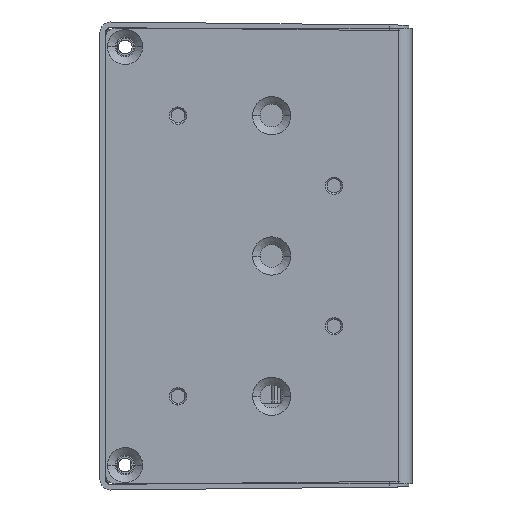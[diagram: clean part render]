
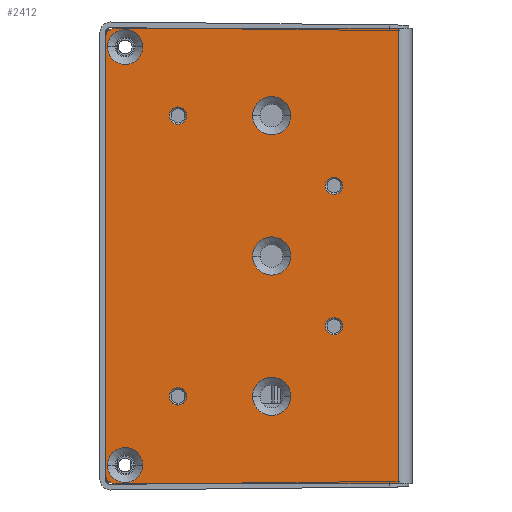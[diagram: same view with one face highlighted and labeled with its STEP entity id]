
A CAD part, left-side view. The second image highlights one B-rep face of the part: STEP entity #2412.
In plain terms, the highlighted planar face has unit normal (-1, 0, 0).
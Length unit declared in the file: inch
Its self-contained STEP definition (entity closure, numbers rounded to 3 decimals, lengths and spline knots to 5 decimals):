
#2=DIRECTION('',(0.,-1.,0.));
#3=VECTOR('',#2,1.812);
#4=CARTESIAN_POINT('',(-2.,1.901,-1.46));
#5=LINE('',#4,#3);
#30=CARTESIAN_POINT('',(-2.,1.901,-1.397));
#31=DIRECTION('',(-1.,0.,0.));
#32=DIRECTION('',(0.,1.,0.));
#33=AXIS2_PLACEMENT_3D('',#30,#31,#32);
#142=CARTESIAN_POINT('',(-2.,0.9,0.9));
#143=DIRECTION('',(1.,0.,0.));
#144=DIRECTION('',(0.,1.,0.));
#145=AXIS2_PLACEMENT_3D('',#142,#143,#144);
#160=DIRECTION('',(0.,0.,1.));
#161=VECTOR('',#160,2.794);
#162=CARTESIAN_POINT('',(-2.,1.964,-1.397));
#163=LINE('',#162,#161);
#164=CARTESIAN_POINT('',(-2.,1.5,-0.9));
#165=DIRECTION('',(-1.,0.,0.));
#166=DIRECTION('',(0.,1.,0.));
#167=AXIS2_PLACEMENT_3D('',#164,#165,#166);
#169=CARTESIAN_POINT('',(-2.,1.5,-0.9));
#170=DIRECTION('',(-1.,0.,0.));
#171=DIRECTION('',(0.,-1.,0.));
#172=AXIS2_PLACEMENT_3D('',#169,#170,#171);
#174=CARTESIAN_POINT('',(-2.,1.5,0.9));
#175=DIRECTION('',(-1.,0.,0.));
#176=DIRECTION('',(0.,1.,0.));
#177=AXIS2_PLACEMENT_3D('',#174,#175,#176);
#179=CARTESIAN_POINT('',(-2.,1.5,0.9));
#180=DIRECTION('',(-1.,0.,0.));
#181=DIRECTION('',(0.,-1.,0.));
#182=AXIS2_PLACEMENT_3D('',#179,#180,#181);
#184=CARTESIAN_POINT('',(-2.,0.5,-0.45));
#185=DIRECTION('',(-1.,0.,0.));
#186=DIRECTION('',(0.,1.,0.));
#187=AXIS2_PLACEMENT_3D('',#184,#185,#186);
#189=CARTESIAN_POINT('',(-2.,0.5,-0.45));
#190=DIRECTION('',(-1.,0.,0.));
#191=DIRECTION('',(0.,-1.,0.));
#192=AXIS2_PLACEMENT_3D('',#189,#190,#191);
#194=CARTESIAN_POINT('',(-2.,0.5,0.45));
#195=DIRECTION('',(-1.,0.,0.));
#196=DIRECTION('',(0.,1.,0.));
#197=AXIS2_PLACEMENT_3D('',#194,#195,#196);
#199=CARTESIAN_POINT('',(-2.,0.5,0.45));
#200=DIRECTION('',(-1.,0.,0.));
#201=DIRECTION('',(0.,-1.,0.));
#202=AXIS2_PLACEMENT_3D('',#199,#200,#201);
#204=CARTESIAN_POINT('',(-2.,0.9,0.9));
#205=DIRECTION('',(1.,0.,0.));
#206=DIRECTION('',(0.,-1.,0.));
#207=AXIS2_PLACEMENT_3D('',#204,#205,#206);
#218=CARTESIAN_POINT('',(-2.,0.9,0.));
#219=DIRECTION('',(1.,0.,0.));
#220=DIRECTION('',(0.,1.,0.));
#221=AXIS2_PLACEMENT_3D('',#218,#219,#220);
#236=CARTESIAN_POINT('',(-2.,0.9,0.));
#237=DIRECTION('',(1.,0.,0.));
#238=DIRECTION('',(0.,-1.,0.));
#239=AXIS2_PLACEMENT_3D('',#236,#237,#238);
#254=CARTESIAN_POINT('',(-2.,1.839,1.34));
#255=DIRECTION('',(-1.,0.,0.));
#256=DIRECTION('',(0.,-1.,0.));
#257=AXIS2_PLACEMENT_3D('',#254,#255,#256);
#264=CARTESIAN_POINT('',(-2.,1.839,1.34));
#265=DIRECTION('',(-1.,0.,0.));
#266=DIRECTION('',(0.,1.,0.));
#267=AXIS2_PLACEMENT_3D('',#264,#265,#266);
#448=CARTESIAN_POINT('',(-2.,1.839,-1.34));
#449=DIRECTION('',(-1.,0.,0.));
#450=DIRECTION('',(0.,1.,0.));
#451=AXIS2_PLACEMENT_3D('',#448,#449,#450);
#466=CARTESIAN_POINT('',(-2.,1.839,-1.34));
#467=DIRECTION('',(-1.,0.,0.));
#468=DIRECTION('',(0.,-1.,0.));
#469=AXIS2_PLACEMENT_3D('',#466,#467,#468);
#654=DIRECTION('',(0.,-1.,0.));
#655=VECTOR('',#654,1.812);
#656=CARTESIAN_POINT('',(-2.,1.901,1.46));
#657=LINE('',#656,#655);
#671=CARTESIAN_POINT('',(-2.,1.901,1.397));
#672=DIRECTION('',(-1.,0.,0.));
#673=DIRECTION('',(0.,0.,1.));
#674=AXIS2_PLACEMENT_3D('',#671,#672,#673);
#1036=DIRECTION('',(0.,0.,-1.));
#1037=VECTOR('',#1036,2.92);
#1038=CARTESIAN_POINT('',(-2.,0.089,1.46));
#1039=LINE('',#1038,#1037);
#1668=CARTESIAN_POINT('',(-2.,0.9,-0.9));
#1669=DIRECTION('',(1.,0.,0.));
#1670=DIRECTION('',(0.,1.,0.));
#1671=AXIS2_PLACEMENT_3D('',#1668,#1669,#1670);
#1686=CARTESIAN_POINT('',(-2.,0.9,-0.9));
#1687=DIRECTION('',(1.,0.,0.));
#1688=DIRECTION('',(0.,-1.,0.));
#1689=AXIS2_PLACEMENT_3D('',#1686,#1687,#1688);
#1736=CARTESIAN_POINT('',(-2.,0.089,1.46));
#1737=CARTESIAN_POINT('',(-2.,0.089,-1.46));
#1738=VERTEX_POINT('',#1736);
#1739=VERTEX_POINT('',#1737);
#1752=CARTESIAN_POINT('',(-2.,1.964,-1.397));
#1754=VERTEX_POINT('',#1752);
#1756=CARTESIAN_POINT('',(-2.,1.901,-1.46));
#1757=VERTEX_POINT('',#1756);
#1761=CARTESIAN_POINT('',(-2.,1.964,1.397));
#1763=VERTEX_POINT('',#1761);
#1766=CARTESIAN_POINT('',(-2.,1.901,1.46));
#1767=VERTEX_POINT('',#1766);
#1860=CARTESIAN_POINT('',(-2.,1.55563,-0.9));
#1861=CARTESIAN_POINT('',(-2.,1.44438,-0.9));
#1862=VERTEX_POINT('',#1860);
#1863=VERTEX_POINT('',#1861);
#1872=CARTESIAN_POINT('',(-2.,1.55563,0.9));
#1873=CARTESIAN_POINT('',(-2.,1.44438,0.9));
#1874=VERTEX_POINT('',#1872);
#1875=VERTEX_POINT('',#1873);
#1884=CARTESIAN_POINT('',(-2.,0.55563,-0.45));
#1885=CARTESIAN_POINT('',(-2.,0.44438,-0.45));
#1886=VERTEX_POINT('',#1884);
#1887=VERTEX_POINT('',#1885);
#1896=CARTESIAN_POINT('',(-2.,0.55563,0.45));
#1897=CARTESIAN_POINT('',(-2.,0.44438,0.45));
#1898=VERTEX_POINT('',#1896);
#1899=VERTEX_POINT('',#1897);
#1984=CARTESIAN_POINT('',(-2.,1.7265,-1.34));
#1985=CARTESIAN_POINT('',(-2.,1.9515,-1.34));
#1986=VERTEX_POINT('',#1984);
#1987=VERTEX_POINT('',#1985);
#1992=CARTESIAN_POINT('',(-2.,1.7265,1.34));
#1993=CARTESIAN_POINT('',(-2.,1.9515,1.34));
#1994=VERTEX_POINT('',#1992);
#1995=VERTEX_POINT('',#1993);
#2068=CARTESIAN_POINT('',(-2.,0.7775,-0.9));
#2069=CARTESIAN_POINT('',(-2.,1.0225,-0.9));
#2070=VERTEX_POINT('',#2068);
#2071=VERTEX_POINT('',#2069);
#2076=CARTESIAN_POINT('',(-2.,0.7775,0.));
#2077=CARTESIAN_POINT('',(-2.,1.0225,0.));
#2078=VERTEX_POINT('',#2076);
#2079=VERTEX_POINT('',#2077);
#2084=CARTESIAN_POINT('',(-2.,0.7775,0.9));
#2085=CARTESIAN_POINT('',(-2.,1.0225,0.9));
#2086=VERTEX_POINT('',#2084);
#2087=VERTEX_POINT('',#2085);
#2343=CARTESIAN_POINT('',(-2.,1.964,-1.46));
#2344=DIRECTION('',(-1.,0.,0.));
#2345=DIRECTION('',(0.,-1.,0.));
#2346=AXIS2_PLACEMENT_3D('',#2343,#2344,#2345);
#2347=PLANE('',#2346);
#2348=ORIENTED_EDGE('',*,*,#2219,.F.);
#2349=ORIENTED_EDGE('',*,*,#2237,.T.);
#2351=ORIENTED_EDGE('',*,*,#2350,.F.);
#2353=ORIENTED_EDGE('',*,*,#2352,.T.);
#2355=ORIENTED_EDGE('',*,*,#2354,.T.);
#2356=ORIENTED_EDGE('',*,*,#2187,.F.);
#2357=EDGE_LOOP('',(#2348,#2349,#2351,#2353,#2355,#2356));
#2358=FACE_OUTER_BOUND('',#2357,.F.);
#2360=ORIENTED_EDGE('',*,*,#2359,.F.);
#2362=ORIENTED_EDGE('',*,*,#2361,.F.);
#2363=EDGE_LOOP('',(#2360,#2362));
#2364=FACE_BOUND('',#2363,.F.);
#2366=ORIENTED_EDGE('',*,*,#2365,.T.);
#2368=ORIENTED_EDGE('',*,*,#2367,.T.);
#2369=EDGE_LOOP('',(#2366,#2368));
#2370=FACE_BOUND('',#2369,.F.);
#2372=ORIENTED_EDGE('',*,*,#2371,.T.);
#2374=ORIENTED_EDGE('',*,*,#2373,.T.);
#2375=EDGE_LOOP('',(#2372,#2374));
#2376=FACE_BOUND('',#2375,.F.);
#2377=ORIENTED_EDGE('',*,*,#2333,.F.);
#2379=ORIENTED_EDGE('',*,*,#2378,.F.);
#2380=EDGE_LOOP('',(#2377,#2379));
#2381=FACE_BOUND('',#2380,.F.);
#2383=ORIENTED_EDGE('',*,*,#2382,.T.);
#2385=ORIENTED_EDGE('',*,*,#2384,.T.);
#2386=EDGE_LOOP('',(#2383,#2385));
#2387=FACE_BOUND('',#2386,.F.);
#2389=ORIENTED_EDGE('',*,*,#2388,.T.);
#2391=ORIENTED_EDGE('',*,*,#2390,.T.);
#2392=EDGE_LOOP('',(#2389,#2391));
#2393=FACE_BOUND('',#2392,.F.);
#2395=ORIENTED_EDGE('',*,*,#2394,.T.);
#2397=ORIENTED_EDGE('',*,*,#2396,.T.);
#2398=EDGE_LOOP('',(#2395,#2397));
#2399=FACE_BOUND('',#2398,.F.);
#2401=ORIENTED_EDGE('',*,*,#2400,.T.);
#2403=ORIENTED_EDGE('',*,*,#2402,.T.);
#2404=EDGE_LOOP('',(#2401,#2403));
#2405=FACE_BOUND('',#2404,.F.);
#2407=ORIENTED_EDGE('',*,*,#2406,.F.);
#2409=ORIENTED_EDGE('',*,*,#2408,.F.);
#2410=EDGE_LOOP('',(#2407,#2409));
#2411=FACE_BOUND('',#2410,.F.);
#2412=ADVANCED_FACE('',(#2358,#2364,#2370,#2376,#2381,#2387,#2393,#2399,#2405,
#2411),#2347,.T.);
#34=CIRCLE('',#33,0.063);
#146=CIRCLE('',#145,0.1225);
#168=CIRCLE('',#167,0.05563);
#173=CIRCLE('',#172,0.05563);
#178=CIRCLE('',#177,0.05563);
#183=CIRCLE('',#182,0.05563);
#188=CIRCLE('',#187,0.05563);
#193=CIRCLE('',#192,0.05563);
#198=CIRCLE('',#197,0.05563);
#203=CIRCLE('',#202,0.05563);
#208=CIRCLE('',#207,0.1225);
#222=CIRCLE('',#221,0.1225);
#240=CIRCLE('',#239,0.1225);
#258=CIRCLE('',#257,0.1125);
#268=CIRCLE('',#267,0.1125);
#452=CIRCLE('',#451,0.1125);
#470=CIRCLE('',#469,0.1125);
#675=CIRCLE('',#674,0.063);
#1672=CIRCLE('',#1671,0.1225);
#1690=CIRCLE('',#1689,0.1225);
#2187=EDGE_CURVE('',#1757,#1739,#5,.T.);
#2219=EDGE_CURVE('',#1754,#1757,#34,.T.);
#2237=EDGE_CURVE('',#1754,#1763,#163,.T.);
#2333=EDGE_CURVE('',#2087,#2086,#146,.T.);
#2350=EDGE_CURVE('',#1767,#1763,#675,.T.);
#2352=EDGE_CURVE('',#1767,#1738,#657,.T.);
#2354=EDGE_CURVE('',#1738,#1739,#1039,.T.);
#2359=EDGE_CURVE('',#2079,#2078,#222,.T.);
#2361=EDGE_CURVE('',#2078,#2079,#240,.T.);
#2365=EDGE_CURVE('',#1994,#1995,#258,.T.);
#2367=EDGE_CURVE('',#1995,#1994,#268,.T.);
#2371=EDGE_CURVE('',#1986,#1987,#470,.T.);
#2373=EDGE_CURVE('',#1987,#1986,#452,.T.);
#2378=EDGE_CURVE('',#2086,#2087,#208,.T.);
#2382=EDGE_CURVE('',#1862,#1863,#168,.T.);
#2384=EDGE_CURVE('',#1863,#1862,#173,.T.);
#2388=EDGE_CURVE('',#1874,#1875,#178,.T.);
#2390=EDGE_CURVE('',#1875,#1874,#183,.T.);
#2394=EDGE_CURVE('',#1886,#1887,#188,.T.);
#2396=EDGE_CURVE('',#1887,#1886,#193,.T.);
#2400=EDGE_CURVE('',#1898,#1899,#198,.T.);
#2402=EDGE_CURVE('',#1899,#1898,#203,.T.);
#2406=EDGE_CURVE('',#2071,#2070,#1672,.T.);
#2408=EDGE_CURVE('',#2070,#2071,#1690,.T.);
